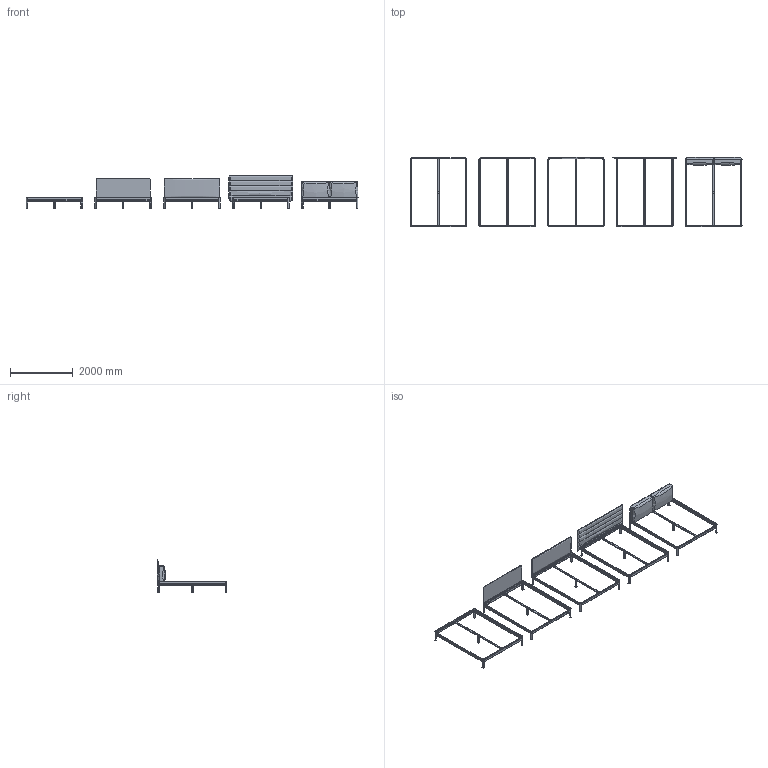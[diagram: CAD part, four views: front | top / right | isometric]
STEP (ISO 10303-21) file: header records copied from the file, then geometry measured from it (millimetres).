
FILE_DESCRIPTION(/* description */ (''),/* implementation_level */ '2;1');
FILE_NAME(/* name */ 'Heia_180x220',/* time_stamp */ '2025-10-15T11:16:53+02:00',/* author */ (''),/* organization */ (''),/* preprocessor_version */ 'ST-DEVELOPER v16.5',/* originating_system */ 'Rhino 7.38',/* authorisation */ '');
FILE_SCHEMA (('CONFIG_CONTROL_DESIGN'));
Length unit declared in the file: millimetre
Products named in the file (1): Document
Bounding box: 10611 x 2233.49 x 1051.22 mm (x, y, z)
Volume: 428898246.6 mm3; surface area: 28289895.6 mm2
Topology: 79 solids, 80 shells, 2148 faces, 5232 edges, 3222 vertices
Faces by surface type: plane 888, cylinder 838, bspline 422
Entity records: 72769 total; most frequent: CARTESIAN_POINT 39605, ORIENTED_EDGE 10422, EDGE_CURVE 5216, VERTEX_POINT 3222, B_SPLINE_CURVE_WITH_KNOTS 2265, EDGE_LOOP 2198, ADVANCED_FACE 2148, FACE_OUTER_BOUND 2148
